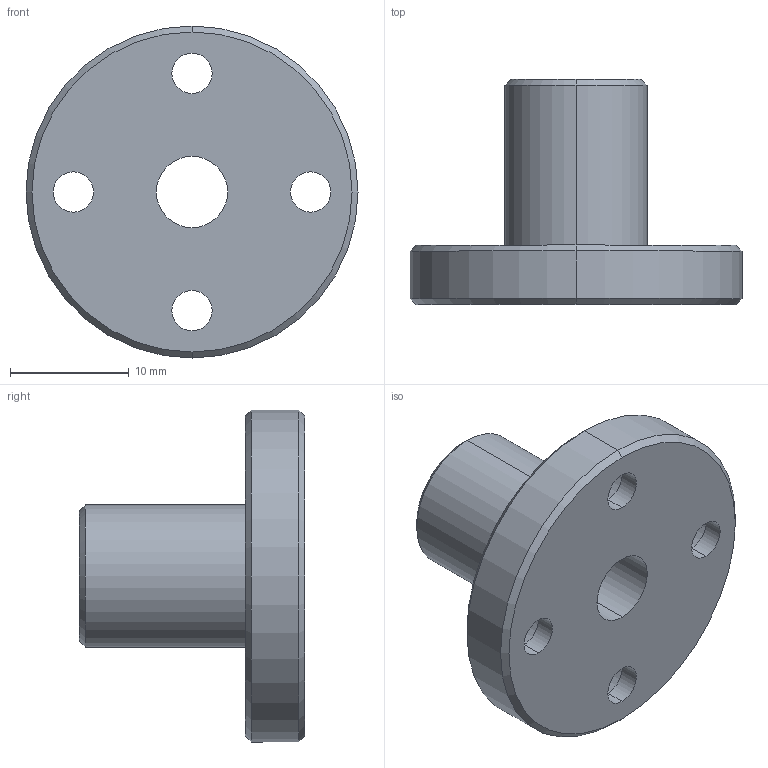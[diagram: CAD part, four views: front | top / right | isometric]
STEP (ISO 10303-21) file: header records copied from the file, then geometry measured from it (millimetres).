
FILE_DESCRIPTION (( 'STEP AP214' ), '1' );
FILE_NAME ('2.7030 Lineaarilaakeri LMF6UU.STEP', '2024-06-18T07:23:30', ( '' ), ( '' ), 'SwSTEP 2.0', 'SolidWorks 2024', '' );
FILE_SCHEMA (( 'AUTOMOTIVE_DESIGN' ));
Length unit declared in the file: millimetre
Products named in the file (1): 2.7030 Lineaarilaakeri LMF6UU
Bounding box: 28 x 19 x 28 mm (x, y, z)
Volume: 3598.8 mm3; surface area: 2706.7 mm2
Topology: 1 solids, 1 shells, 35 faces, 78 edges, 50 vertices
Faces by surface type: cylinder 22, plane 7, cone 6
Entity records: 1037 total; most frequent: DIRECTION 200, CARTESIAN_POINT 164, ORIENTED_EDGE 156, AXIS2_PLACEMENT_3D 86, EDGE_CURVE 78, VERTEX_POINT 50, CIRCLE 50, EDGE_LOOP 50
